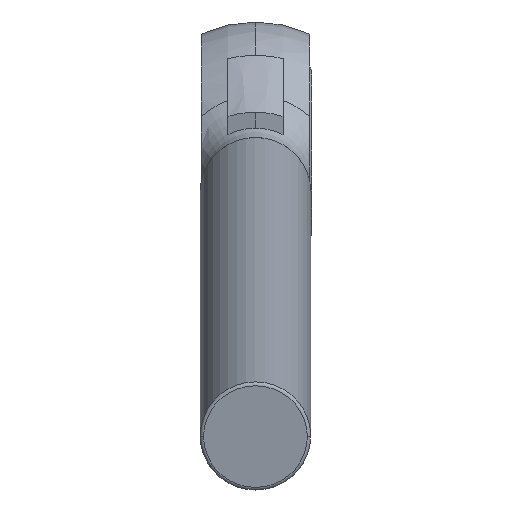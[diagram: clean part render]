
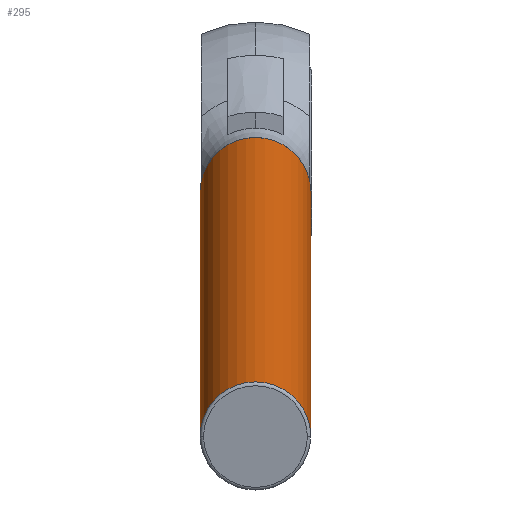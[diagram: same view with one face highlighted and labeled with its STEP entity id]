
A CAD part, left-side view. The second image highlights one B-rep face of the part: STEP entity #295.
In plain terms, the highlighted cylindrical face has radius 25 mm (diameter 50 mm), a partial arc.
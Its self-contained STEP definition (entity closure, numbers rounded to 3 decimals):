
#2 = ORIENTED_EDGE ( 'NONE', *, *, #361, .F. ) ;
#151 = VERTEX_POINT ( 'NONE', #1314 ) ;
#204 = CARTESIAN_POINT ( 'NONE',  ( 27.628, -219., 717.854 ) ) ;
#295 = ADVANCED_FACE ( 'NONE', ( #1010 ), #864, .T. ) ;
#361 = EDGE_CURVE ( 'NONE', #1176, #151, #1767, .T. ) ;
#435 = CARTESIAN_POINT ( 'NONE',  ( -553.586, -219., 594.313 ) ) ;
#495 = ORIENTED_EDGE ( 'NONE', *, *, #576, .T. ) ;
#534 = DIRECTION ( 'NONE',  ( 0., -1., 0. ) ) ;
#576 = EDGE_CURVE ( 'NONE', #796, #151, #1353, .T. ) ;
#579 = CARTESIAN_POINT ( 'NONE',  ( -492.746, -194., 607.245 ) ) ;
#590 = DIRECTION ( 'NONE',  ( -0.978, 0., -0.208 ) ) ;
#595 = EDGE_CURVE ( 'NONE', #670, #1176, #1758, .T. ) ;
#642 = ORIENTED_EDGE ( 'NONE', *, *, #595, .F. ) ;
#660 = AXIS2_PLACEMENT_3D ( 'NONE', #1876, #1844, #1571 ) ;
#670 = VERTEX_POINT ( 'NONE', #204 ) ;
#775 = DIRECTION ( 'NONE',  ( -0.978, 0., -0.208 ) ) ;
#796 = VERTEX_POINT ( 'NONE', #1570 ) ;
#857 = DIRECTION ( 'NONE',  ( -0.978, 0., -0.208 ) ) ;
#864 = CYLINDRICAL_SURFACE ( 'NONE', #1066, 25. ) ;
#955 = ORIENTED_EDGE ( 'NONE', *, *, #1357, .T. ) ;
#1010 = FACE_OUTER_BOUND ( 'NONE', #1073, .T. ) ;
#1018 = DIRECTION ( 'NONE',  ( -0.978, 0., -0.208 ) ) ;
#1066 = AXIS2_PLACEMENT_3D ( 'NONE', #1559, #857, #534 ) ;
#1073 = EDGE_LOOP ( 'NONE', ( #955, #495, #2, #642 ) ) ;
#1176 = VERTEX_POINT ( 'NONE', #1438 ) ;
#1213 = CARTESIAN_POINT ( 'NONE',  ( -553.586, -169., 594.313 ) ) ;
#1314 = CARTESIAN_POINT ( 'NONE',  ( -492.746, -169., 607.245 ) ) ;
#1353 = LINE ( 'NONE', #1213, #1581 ) ;
#1357 = EDGE_CURVE ( 'NONE', #670, #796, #1610, .T. ) ;
#1438 = CARTESIAN_POINT ( 'NONE',  ( -492.746, -219., 607.245 ) ) ;
#1559 = CARTESIAN_POINT ( 'NONE',  ( -553.586, -194., 594.313 ) ) ;
#1570 = CARTESIAN_POINT ( 'NONE',  ( 27.628, -169., 717.854 ) ) ;
#1571 = DIRECTION ( 'NONE',  ( 0., -1., 0. ) ) ;
#1581 = VECTOR ( 'NONE', #590, 1000. ) ;
#1601 = DIRECTION ( 'NONE',  ( 0., -1., 0. ) ) ;
#1610 = CIRCLE ( 'NONE', #660, 25. ) ;
#1758 = LINE ( 'NONE', #435, #1826 ) ;
#1767 = CIRCLE ( 'NONE', #1823, 25. ) ;
#1823 = AXIS2_PLACEMENT_3D ( 'NONE', #579, #1018, #1601 ) ;
#1826 = VECTOR ( 'NONE', #775, 1000. ) ;
#1844 = DIRECTION ( 'NONE',  ( -0.978, 0., -0.208 ) ) ;
#1876 = CARTESIAN_POINT ( 'NONE',  ( 27.628, -194., 717.854 ) ) ;
